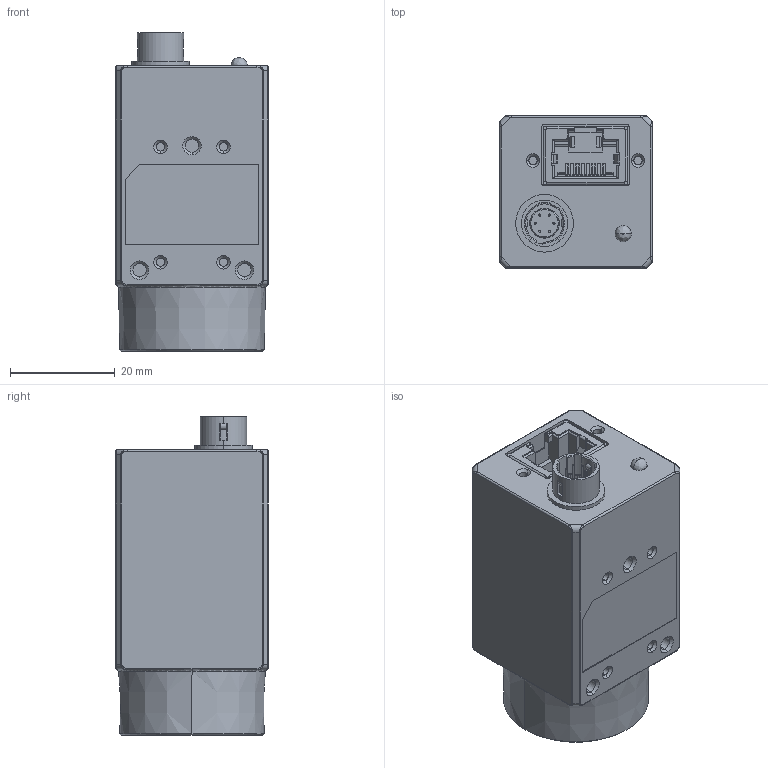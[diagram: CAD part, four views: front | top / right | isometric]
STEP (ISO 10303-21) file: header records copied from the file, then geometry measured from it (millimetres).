
FILE_DESCRIPTION((''),'2;1');
FILE_NAME('MV-600W-3D','2017-02-07T',('wanggangqiang'),(''),'PRO/ENGINEER BY PARAMETRIC TECHNOLOGY CORPORATION, 2016100','PRO/ENGINEER BY PARAMETRIC TECHNOLOGY CORPORATION, 2016100','');
FILE_SCHEMA(('CONFIG_CONTROL_DESIGN'));
Length unit declared in the file: millimetre
Products named in the file (1): MV-600W-3D
Bounding box: 29 x 29 x 60.81 mm (x, y, z)
Volume: 34128.1 mm3; surface area: 14603.7 mm2
Topology: 2 solids, 2 shells, 1225 faces, 3609 edges, 2356 vertices
Faces by surface type: plane 834, cylinder 318, bspline 36, cone 31, extrusion 4, torus 2
Entity records: 42765 total; most frequent: CARTESIAN_POINT 9876, ORIENTED_EDGE 7218, DIRECTION 6465, EDGE_CURVE 3609, VECTOR 2695, LINE 2691, VERTEX_POINT 2356, AXIS2_PLACEMENT_3D 1885
